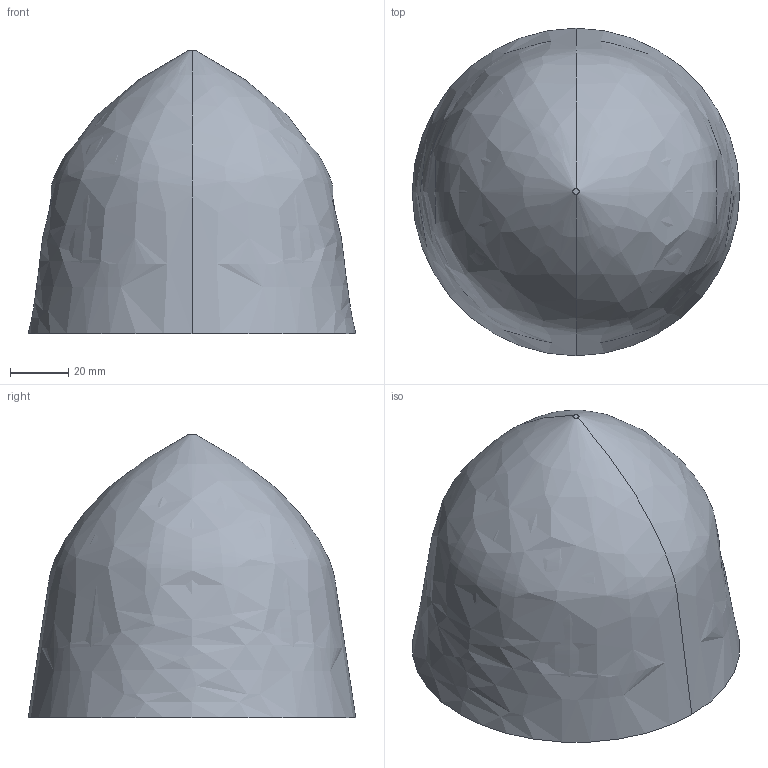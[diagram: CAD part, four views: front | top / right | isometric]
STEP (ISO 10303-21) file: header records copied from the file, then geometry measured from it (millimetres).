
FILE_DESCRIPTION (( 'STEP AP214' ), '1' );
FILE_NAME ('膧瀁螒1.STEP', '2024-12-11T12:52:17', ( '' ), ( '' ), 'SwSTEP 2.0', 'SolidWorks 2022', '' );
FILE_SCHEMA (( 'AUTOMOTIVE_DESIGN' ));
Length unit declared in the file: millimetre
Products named in the file (1): купол_1
Bounding box: 112.64 x 112.64 x 97.46 mm (x, y, z)
Volume: 22991.7 mm3; surface area: 57241.4 mm2
Topology: 1 solids, 1 shells, 8 faces, 18 edges, 12 vertices
Faces by surface type: bspline 6, plane 2
Entity records: 8264 total; most frequent: CARTESIAN_POINT 8087, ORIENTED_EDGE 36, DIRECTION 22, EDGE_CURVE 18, VERTEX_POINT 12, AXIS2_PLACEMENT_3D 11, ADVANCED_FACE 8, EDGE_LOOP 8
